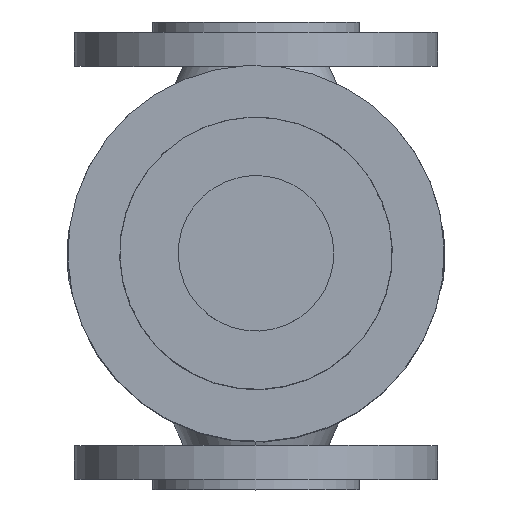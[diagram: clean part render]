
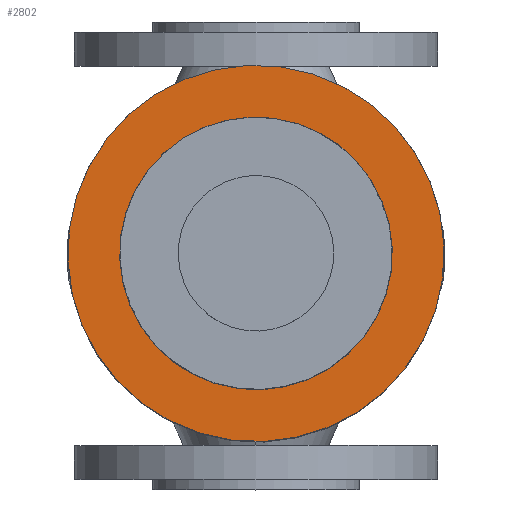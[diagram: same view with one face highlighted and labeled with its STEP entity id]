
A CAD part, top view. The second image highlights one B-rep face of the part: STEP entity #2802.
In plain terms, the highlighted planar face has unit normal (0, 0, 1).
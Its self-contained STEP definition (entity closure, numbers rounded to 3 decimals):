
#135 = PLANE ( 'NONE',  #7831 ) ;
#189 = CARTESIAN_POINT ( 'NONE',  ( 121.004, -154.909, 44. ) ) ;
#356 = DIRECTION ( 'NONE',  ( 0., 0., 1. ) ) ;
#377 = CARTESIAN_POINT ( 'NONE',  ( 139.421, -147.281, 44. ) ) ;
#434 = VERTEX_POINT ( 'NONE', #3367 ) ;
#1113 = VERTEX_POINT ( 'NONE', #3979 ) ;
#1120 = DIRECTION ( 'NONE',  ( -0.924, -0.383, 0. ) ) ;
#1667 = DIRECTION ( 'NONE',  ( 0., 0., -1. ) ) ;
#1708 = ORIENTED_EDGE ( 'NONE', *, *, #1756, .T. ) ;
#1756 = EDGE_CURVE ( 'NONE', #7514, #1113, #3243, .T. ) ;
#1769 = DIRECTION ( 'NONE',  ( 0., 0., 1. ) ) ;
#2021 = DIRECTION ( 'NONE',  ( 0., 0., 1. ) ) ;
#2465 = ORIENTED_EDGE ( 'NONE', *, *, #9682, .F. ) ;
#2630 = EDGE_CURVE ( 'NONE', #1113, #7514, #4515, .T. ) ;
#2802 = ADVANCED_FACE ( 'NONE', ( #3876, #6882 ), #135, .F. ) ;
#3243 = CIRCLE ( 'NONE', #7183, 72.434 ) ;
#3367 = CARTESIAN_POINT ( 'NONE',  ( 23.996, -195.091, 44. ) ) ;
#3876 = FACE_OUTER_BOUND ( 'NONE', #4599, .T. ) ;
#3979 = CARTESIAN_POINT ( 'NONE',  ( 5.579, -202.719, 44. ) ) ;
#4170 = EDGE_CURVE ( 'NONE', #9694, #434, #9757, .T. ) ;
#4337 = CARTESIAN_POINT ( 'NONE',  ( 72.5, -175., 44. ) ) ;
#4422 = DIRECTION ( 'NONE',  ( -0.924, -0.383, 0. ) ) ;
#4515 = CIRCLE ( 'NONE', #5459, 72.434 ) ;
#4599 = EDGE_LOOP ( 'NONE', ( #6655, #1708 ) ) ;
#4668 = DIRECTION ( 'NONE',  ( 0., -1., 0. ) ) ;
#4960 = CARTESIAN_POINT ( 'NONE',  ( 72.5, -175., 44. ) ) ;
#5033 = DIRECTION ( 'NONE',  ( -0.924, -0.383, 0. ) ) ;
#5459 = AXIS2_PLACEMENT_3D ( 'NONE', #4960, #8825, #4422 ) ;
#6179 = EDGE_LOOP ( 'NONE', ( #7037, #2465 ) ) ;
#6257 = CARTESIAN_POINT ( 'NONE',  ( 72.5, -175., 44. ) ) ;
#6655 = ORIENTED_EDGE ( 'NONE', *, *, #2630, .T. ) ;
#6882 = FACE_BOUND ( 'NONE', #6179, .T. ) ;
#7037 = ORIENTED_EDGE ( 'NONE', *, *, #4170, .F. ) ;
#7183 = AXIS2_PLACEMENT_3D ( 'NONE', #6257, #356, #8734 ) ;
#7376 = AXIS2_PLACEMENT_3D ( 'NONE', #4337, #2021, #5033 ) ;
#7514 = VERTEX_POINT ( 'NONE', #377 ) ;
#7831 = AXIS2_PLACEMENT_3D ( 'NONE', #8278, #1667, #4668 ) ;
#8278 = CARTESIAN_POINT ( 'NONE',  ( 5.579, -202.719, 44. ) ) ;
#8302 = CIRCLE ( 'NONE', #9254, 52.5 ) ;
#8481 = CARTESIAN_POINT ( 'NONE',  ( 72.5, -175., 44. ) ) ;
#8734 = DIRECTION ( 'NONE',  ( -0.924, -0.383, 0. ) ) ;
#8825 = DIRECTION ( 'NONE',  ( 0., 0., 1. ) ) ;
#9254 = AXIS2_PLACEMENT_3D ( 'NONE', #8481, #1769, #1120 ) ;
#9682 = EDGE_CURVE ( 'NONE', #434, #9694, #8302, .T. ) ;
#9694 = VERTEX_POINT ( 'NONE', #189 ) ;
#9757 = CIRCLE ( 'NONE', #7376, 52.5 ) ;
